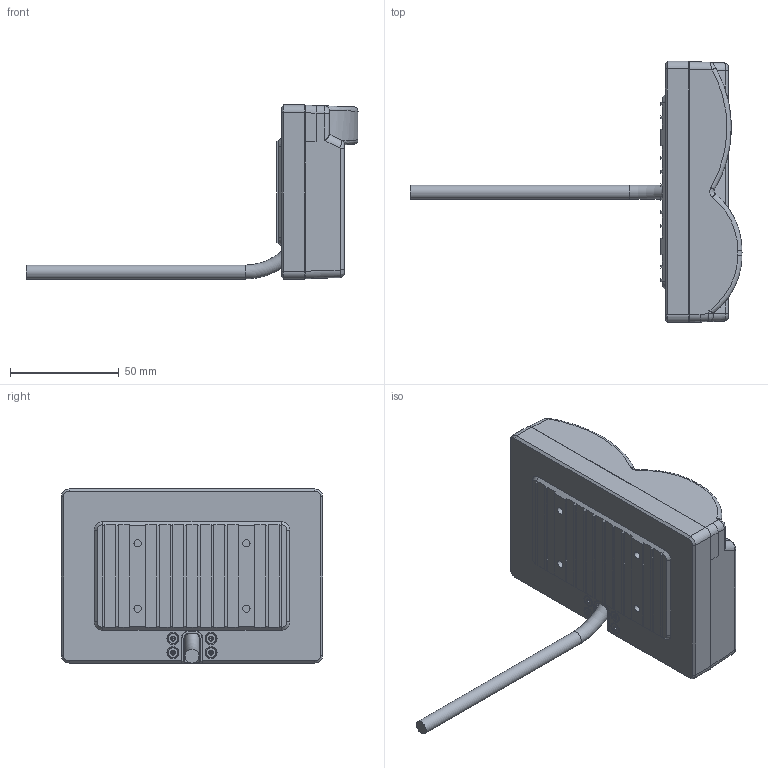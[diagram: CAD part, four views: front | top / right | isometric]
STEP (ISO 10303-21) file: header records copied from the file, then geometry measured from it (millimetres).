
FILE_DESCRIPTION(/* description */ (''),/* implementation_level */ '2;1');
FILE_NAME(/* name */ 'Sonar 3D-15.step',/* time_stamp */ '2024-03-20T09:39:14+01:00',/* author */ (''),/* organization */ (''),/* preprocessor_version */ 'ST-DEVELOPER v20',/* originating_system */ 'Autodesk Translation Framework v12.20.1.177',/* authorisation */ '');
FILE_SCHEMA (('AUTOMOTIVE_DESIGN { 1 0 10303 214 3 1 1 }'));
Length unit declared in the file: millimetre
Products named in the file (3): Assembly; cable; Sonar 3D-15
Assembly tree (2 placements, depth 2):
  Assembly
    cable
    Sonar 3D-15
Bounding box: 152.61 x 120 x 80 mm (x, y, z)
Volume: 285545.5 mm3; surface area: 34264.6 mm2
Topology: 2 solids, 2 shells, 356 faces, 865 edges, 509 vertices
Faces by surface type: plane 134, cone 106, cylinder 90, bspline 21, torus 5
Full cylindrical faces by diameter (mm): 2.5 x4, 3.332 x4, 4.7 x4, 6.4 x2
Entity records: 11523 total; most frequent: CARTESIAN_POINT 3312, ORIENTED_EDGE 1682, DIRECTION 1641, EDGE_CURVE 841, AXIS2_PLACEMENT_3D 596, VERTEX_POINT 509, LINE 449, VECTOR 449
